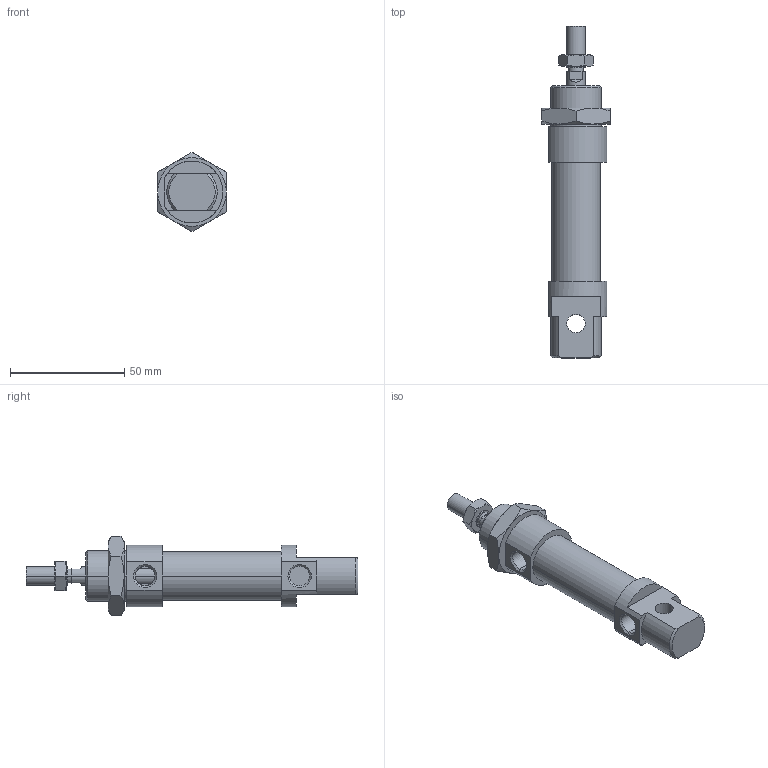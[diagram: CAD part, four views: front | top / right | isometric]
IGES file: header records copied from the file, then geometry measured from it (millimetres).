
Global section: file name: No Iges File Name specified; native system: Autodesk Inventor 2010; preprocessor: AutoDesk Inventor Iges Exporter R2010; author: rivolro1; date: 20090604.093245; units: millimetre
Bounding box: 30 x 145 x 34.64 mm (x, y, z)
Volume: 49651.6 mm3; surface area: 16284.4 mm2
Topology: 4 solids, 4 shells, 110 faces, 249 edges, 152 vertices
Faces by surface type: plane 41, cone 28, bspline 21, cylinder 14, revolution 6
